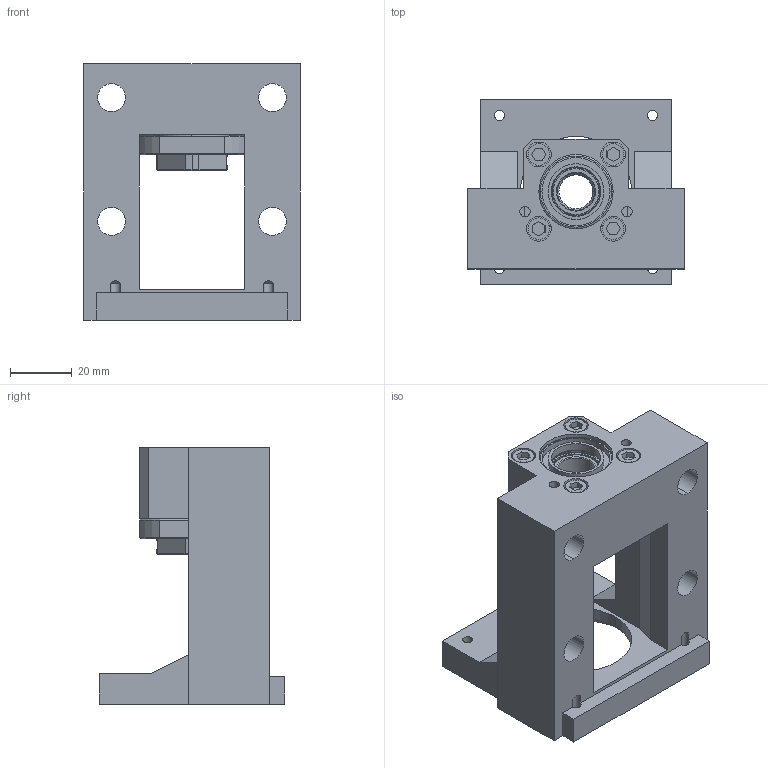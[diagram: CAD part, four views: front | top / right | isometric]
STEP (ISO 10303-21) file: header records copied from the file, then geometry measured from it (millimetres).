
FILE_DESCRIPTION (( 'STEP AP203' ), '1' );
FILE_NAME ('MBCE12-DP.STEP', '2017-12-28T07:21:48', ( '' ), ( '' ), 'SwSTEP 2.0', 'SolidWorks 2017', '' );
FILE_SCHEMA (( 'CONFIG_CONTROL_DESIGN' ));
Length unit declared in the file: millimetre
Products named in the file (1): MBCE12-DP
Bounding box: 70 x 60 x 83 mm (x, y, z)
Surface area: 35695.5 mm2 (no closed solid volume)
Topology: 0 solids, 19 shells, 256 faces, 669 edges, 431 vertices
Faces by surface type: plane 96, cylinder 95, cone 39, torus 14, sphere 8, bspline 4
Entity records: 8290 total; most frequent: CARTESIAN_POINT 1907, DIRECTION 1388, ORIENTED_EDGE 1191, EDGE_CURVE 649, AXIS2_PLACEMENT_3D 532, VERTEX_POINT 419, LINE 324, VECTOR 324
